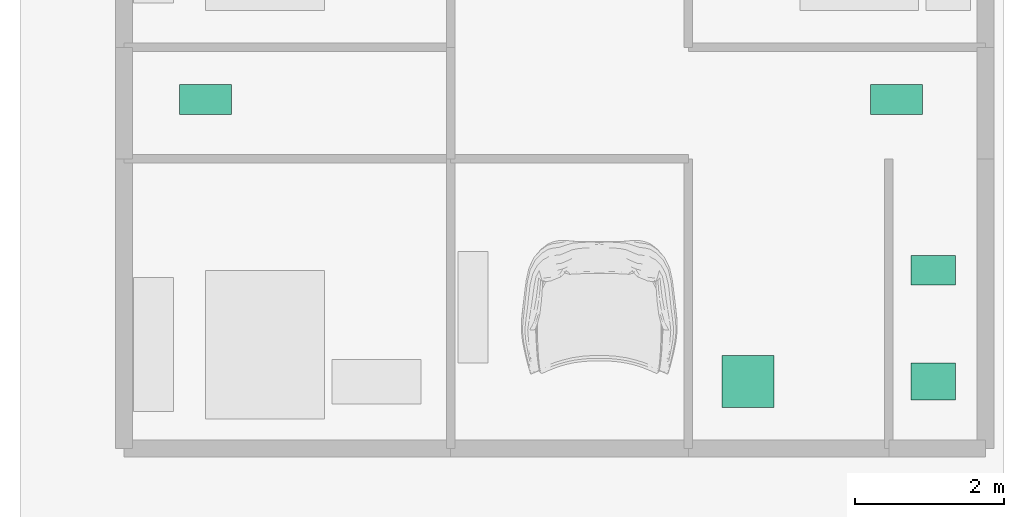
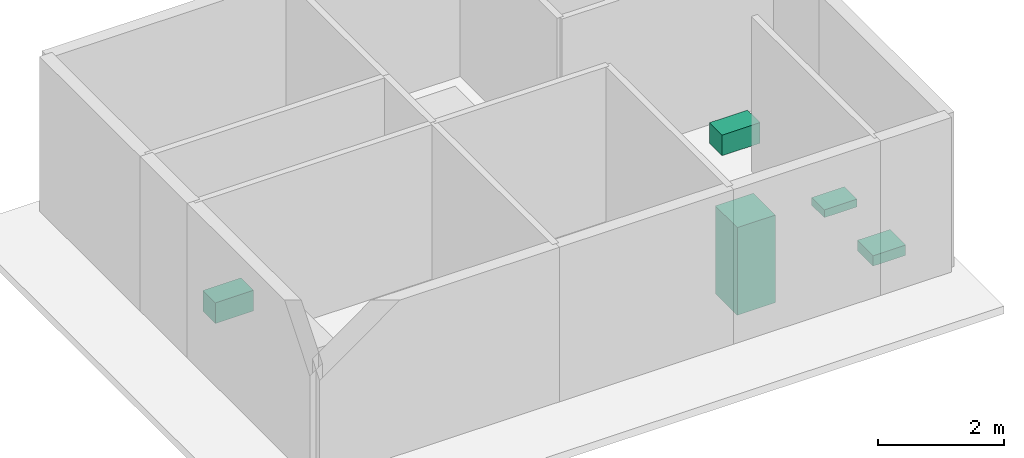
# One storey, part 2 of 3: 3 sanitary terminals, 2 electric appliances.
"""IFC4 building model written with IfcOpenShell, lengths in metres."""

from ifc_helpers import new_model, si_unit, frame, origin, place, context, project, spatial, polyline, outline, extrude, material, element, save


model = new_model("IFC4")

# Units and contexts
model_context = context("Model", 3, precision=1e-05, world=origin())
ifc_project = project(units=[si_unit("LENGTHUNIT", "METRE")], contexts=[model_context])

# Site, building, storey
site_placement = place(None, origin())
site = spatial("IfcSite", under=ifc_project, at=site_placement, Name="Site")
building_placement = place(site_placement, origin())
building = spatial("IfcBuilding", under=site, at=building_placement, Name="Structure")
storey_placement = place(building_placement, origin())
storey = spatial("IfcBuildingStorey", under=building, at=storey_placement, Name="Ground Floor")

# Sanitary terminals
ifc_material_1 = material(Name="Ceramic")
sanitary_terminal_1_placement = place(storey_placement, frame((1.2, 4.8, 0.0)))
element("IfcSanitaryTerminal", 1, at=sanitary_terminal_1_placement, inside=storey, material=ifc_material_1, Name="int_t1_wc", PredefinedType="TOILETPAN", context=model_context, shape_type="SweptSolid", body=[
    extrude(outline(polyline([(-0.35, -0.2), (0.35, -0.2), (0.35, 0.2), (-0.35, 0.2), (-0.35, -0.2)])), origin(), (0.0, 0.0, 1.0), 0.4),
])
ifc_material_2 = material(Name="Ceramic")
sanitary_terminal_2_placement = place(storey_placement, frame((10.5, 4.8, 0.0)))
element("IfcSanitaryTerminal", 2, at=sanitary_terminal_2_placement, inside=storey, material=ifc_material_2, Name="int_t2_wc", PredefinedType="TOILETPAN", context=model_context, shape_type="SweptSolid", body=[
    extrude(outline(polyline([(-0.35, -0.2), (0.35, -0.2), (0.35, 0.2), (-0.35, 0.2), (-0.35, -0.2)])), origin(), (0.0, 0.0, 1.0), 0.4),
])
ifc_material_3 = material(Name="Stainless Steel")
sanitary_terminal_3_placement = place(storey_placement, frame((11.0, 1.0, 0.0)))
element("IfcSanitaryTerminal", 3, at=sanitary_terminal_3_placement, inside=storey, material=ifc_material_3, Name="int_kit_sink", PredefinedType="SINK", context=model_context, shape_type="SweptSolid", body=[
    extrude(outline(polyline([(-0.3, -0.25), (0.3, -0.25), (0.3, 0.25), (-0.3, 0.25), (-0.3, -0.25)])), origin(), (0.0, 0.0, 1.0), 0.2),
])

# Electric appliances
ifc_material_4 = material(Name="Glass/Steel")
electric_appliance_1_placement = place(storey_placement, frame((11.0, 2.5, 0.0)))
element("IfcElectricAppliance", 4, at=electric_appliance_1_placement, inside=storey, material=ifc_material_4, Name="int_kit_stove", PredefinedType="ELECTRICCOOKER", context=model_context, shape_type="SweptSolid", body=[
    extrude(outline(polyline([(-0.3, -0.2), (0.3, -0.2), (0.3, 0.2), (-0.3, 0.2), (-0.3, -0.2)])), origin(), (0.0, 0.0, 1.0), 0.15),
])
ifc_material_5 = material(Name="Steel")
electric_appliance_2_placement = place(storey_placement, frame((8.5, 1.0, 0.0)))
element("IfcElectricAppliance", 5, at=electric_appliance_2_placement, inside=storey, material=ifc_material_5, Name="int_kit_fridge", PredefinedType="REFRIGERATOR", context=model_context, shape_type="SweptSolid", body=[
    extrude(outline(polyline([(-0.35, -0.35), (0.35, -0.35), (0.35, 0.35), (-0.35, 0.35), (-0.35, -0.35)])), origin(), (0.0, 0.0, 1.0), 1.7),
])

save(model, "model.ifc")
